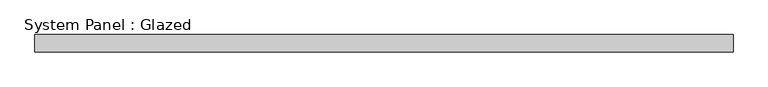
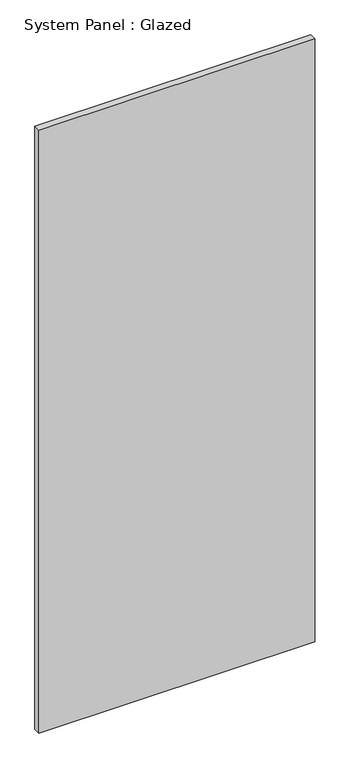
"""IFC4 building model written with IfcOpenShell, lengths in millimetres: plate geometry, System Panel : Glazed."""

from ifc_helpers import new_model, si_unit, origin, origin_with_axes, place, context, project, spatial, polyline, outline, extrude, source, transform, mapped, element, save


def system_panel_glazed_fe8bebd6(model_context):
    return source(origin(), model_context, "Body", "SweptSolid", [
        extrude(outline(polyline([(508.3333333, 24.5), (-508.3333333, 24.5), (-508.3333333, 49.5), (508.3333333, 49.5), (508.3333333, 24.5)])), origin_with_axes(), (0.0, 0.0, 1.0), 2350.0),
    ])


if __name__ == "__main__":
    model = new_model("IFC4")
    model_context = context("Model", 3, world=origin())
    ifc_project = project(units=[si_unit("LENGTHUNIT", "METRE", prefix="MILLI")], contexts=[model_context])
    site = spatial("IfcSite", under=ifc_project)
    building = spatial("IfcBuilding", under=site)
    placement = place(None, origin())
    system_panel_glazed_shape = system_panel_glazed_fe8bebd6(model_context)
    element("IfcPlate", 1, ObjectType="System Panel : Glazed", at=placement, inside=building, context=model_context, shape_type="MappedRepresentation", body=[
        mapped(system_panel_glazed_shape, transform((0.0, 0.0, 0.0), x_axis=(1.0, 0.0, 0.0), y_axis=(0.0, 1.0, 0.0), z_axis=(0.0, 0.0, 1.0))),
    ])
    save(model, "model.ifc")
